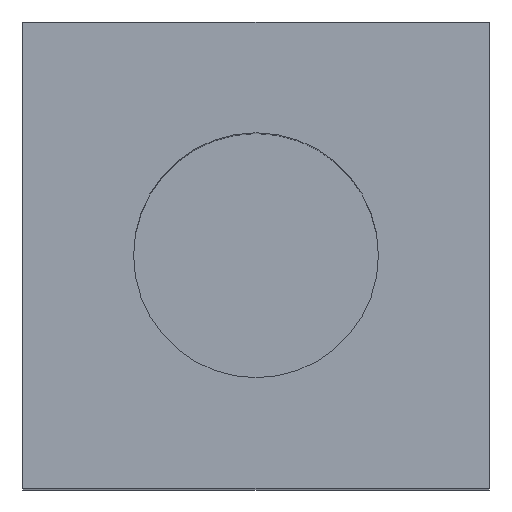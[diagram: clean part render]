
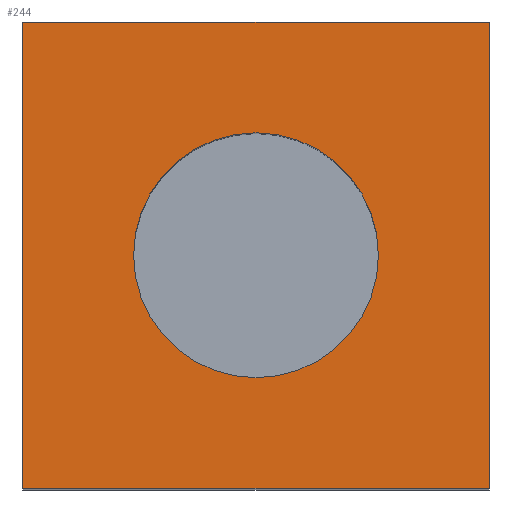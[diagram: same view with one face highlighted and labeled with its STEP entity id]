
A CAD part, top view. The second image highlights one B-rep face of the part: STEP entity #244.
In plain terms, the highlighted planar face has unit normal (0, 0, 1).
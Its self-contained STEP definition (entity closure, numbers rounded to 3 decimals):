
#24 = VERTEX_POINT('',#25);
#25 = CARTESIAN_POINT('',(317.327,4.,12.916));
#32 = PLANE('',#33);
#33 = AXIS2_PLACEMENT_3D('',#34,#35,#36);
#34 = CARTESIAN_POINT('',(317.327,4.,5.116));
#35 = DIRECTION('',(1.,0.,-0.));
#36 = DIRECTION('',(0.,0.,1.));
#44 = PLANE('',#45);
#45 = AXIS2_PLACEMENT_3D('',#46,#47,#48);
#46 = CARTESIAN_POINT('',(317.327,4.,5.116));
#47 = DIRECTION('',(-0.,1.,0.));
#48 = DIRECTION('',(0.,0.,1.));
#85 = VERTEX_POINT('',#86);
#86 = CARTESIAN_POINT('',(317.327,8.,12.916));
#100 = PLANE('',#101);
#101 = AXIS2_PLACEMENT_3D('',#102,#103,#104);
#102 = CARTESIAN_POINT('',(317.327,8.,5.116));
#103 = DIRECTION('',(-0.,1.,0.));
#104 = DIRECTION('',(0.,0.,1.));
#112 = EDGE_CURVE('',#24,#85,#113,.T.);
#113 = SURFACE_CURVE('',#114,(#118,#125),.PCURVE_S1.);
#114 = LINE('',#115,#116);
#115 = CARTESIAN_POINT('',(317.327,4.,12.916));
#116 = VECTOR('',#117,1.);
#117 = DIRECTION('',(-0.,1.,0.));
#118 = PCURVE('',#32,#119);
#119 = DEFINITIONAL_REPRESENTATION('',(#120),#124);
#120 = LINE('',#121,#122);
#121 = CARTESIAN_POINT('',(7.8,0.));
#122 = VECTOR('',#123,1.);
#123 = DIRECTION('',(0.,-1.));
#124 = ( GEOMETRIC_REPRESENTATION_CONTEXT(2) 
PARAMETRIC_REPRESENTATION_CONTEXT() REPRESENTATION_CONTEXT('2D SPACE',''
  ) );
#125 = PCURVE('',#126,#131);
#126 = PLANE('',#127);
#127 = AXIS2_PLACEMENT_3D('',#128,#129,#130);
#128 = CARTESIAN_POINT('',(317.327,4.,12.916));
#129 = DIRECTION('',(0.,0.,1.));
#130 = DIRECTION('',(1.,0.,-0.));
#131 = DEFINITIONAL_REPRESENTATION('',(#132),#136);
#132 = LINE('',#133,#134);
#133 = CARTESIAN_POINT('',(0.,0.));
#134 = VECTOR('',#135,1.);
#135 = DIRECTION('',(0.,1.));
#136 = ( GEOMETRIC_REPRESENTATION_CONTEXT(2) 
PARAMETRIC_REPRESENTATION_CONTEXT() REPRESENTATION_CONTEXT('2D SPACE',''
  ) );
#165 = EDGE_CURVE('',#24,#166,#168,.T.);
#166 = VERTEX_POINT('',#167);
#167 = CARTESIAN_POINT('',(321.327,4.,12.916));
#168 = SURFACE_CURVE('',#169,(#173,#180),.PCURVE_S1.);
#169 = LINE('',#170,#171);
#170 = CARTESIAN_POINT('',(317.327,4.,12.916));
#171 = VECTOR('',#172,1.);
#172 = DIRECTION('',(1.,0.,-0.));
#173 = PCURVE('',#44,#174);
#174 = DEFINITIONAL_REPRESENTATION('',(#175),#179);
#175 = LINE('',#176,#177);
#176 = CARTESIAN_POINT('',(7.8,0.));
#177 = VECTOR('',#178,1.);
#178 = DIRECTION('',(0.,1.));
#179 = ( GEOMETRIC_REPRESENTATION_CONTEXT(2) 
PARAMETRIC_REPRESENTATION_CONTEXT() REPRESENTATION_CONTEXT('2D SPACE',''
  ) );
#180 = PCURVE('',#126,#181);
#181 = DEFINITIONAL_REPRESENTATION('',(#182),#186);
#182 = LINE('',#183,#184);
#183 = CARTESIAN_POINT('',(0.,0.));
#184 = VECTOR('',#185,1.);
#185 = DIRECTION('',(1.,0.));
#186 = ( GEOMETRIC_REPRESENTATION_CONTEXT(2) 
PARAMETRIC_REPRESENTATION_CONTEXT() REPRESENTATION_CONTEXT('2D SPACE',''
  ) );
#202 = PLANE('',#203);
#203 = AXIS2_PLACEMENT_3D('',#204,#205,#206);
#204 = CARTESIAN_POINT('',(321.327,4.,5.116));
#205 = DIRECTION('',(1.,0.,-0.));
#206 = DIRECTION('',(0.,0.,1.));
#244 = ADVANCED_FACE('',(#245,#293),#126,.T.);
#245 = FACE_BOUND('',#246,.T.);
#246 = EDGE_LOOP('',(#247,#248,#249,#272));
#247 = ORIENTED_EDGE('',*,*,#112,.F.);
#248 = ORIENTED_EDGE('',*,*,#165,.T.);
#249 = ORIENTED_EDGE('',*,*,#250,.T.);
#250 = EDGE_CURVE('',#166,#251,#253,.T.);
#251 = VERTEX_POINT('',#252);
#252 = CARTESIAN_POINT('',(321.327,8.,12.916));
#253 = SURFACE_CURVE('',#254,(#258,#265),.PCURVE_S1.);
#254 = LINE('',#255,#256);
#255 = CARTESIAN_POINT('',(321.327,4.,12.916));
#256 = VECTOR('',#257,1.);
#257 = DIRECTION('',(-0.,1.,0.));
#258 = PCURVE('',#126,#259);
#259 = DEFINITIONAL_REPRESENTATION('',(#260),#264);
#260 = LINE('',#261,#262);
#261 = CARTESIAN_POINT('',(4.,0.));
#262 = VECTOR('',#263,1.);
#263 = DIRECTION('',(0.,1.));
#264 = ( GEOMETRIC_REPRESENTATION_CONTEXT(2) 
PARAMETRIC_REPRESENTATION_CONTEXT() REPRESENTATION_CONTEXT('2D SPACE',''
  ) );
#265 = PCURVE('',#202,#266);
#266 = DEFINITIONAL_REPRESENTATION('',(#267),#271);
#267 = LINE('',#268,#269);
#268 = CARTESIAN_POINT('',(7.8,0.));
#269 = VECTOR('',#270,1.);
#270 = DIRECTION('',(0.,-1.));
#271 = ( GEOMETRIC_REPRESENTATION_CONTEXT(2) 
PARAMETRIC_REPRESENTATION_CONTEXT() REPRESENTATION_CONTEXT('2D SPACE',''
  ) );
#272 = ORIENTED_EDGE('',*,*,#273,.F.);
#273 = EDGE_CURVE('',#85,#251,#274,.T.);
#274 = SURFACE_CURVE('',#275,(#279,#286),.PCURVE_S1.);
#275 = LINE('',#276,#277);
#276 = CARTESIAN_POINT('',(317.327,8.,12.916));
#277 = VECTOR('',#278,1.);
#278 = DIRECTION('',(1.,0.,-0.));
#279 = PCURVE('',#126,#280);
#280 = DEFINITIONAL_REPRESENTATION('',(#281),#285);
#281 = LINE('',#282,#283);
#282 = CARTESIAN_POINT('',(0.,4.));
#283 = VECTOR('',#284,1.);
#284 = DIRECTION('',(1.,0.));
#285 = ( GEOMETRIC_REPRESENTATION_CONTEXT(2) 
PARAMETRIC_REPRESENTATION_CONTEXT() REPRESENTATION_CONTEXT('2D SPACE',''
  ) );
#286 = PCURVE('',#100,#287);
#287 = DEFINITIONAL_REPRESENTATION('',(#288),#292);
#288 = LINE('',#289,#290);
#289 = CARTESIAN_POINT('',(7.8,0.));
#290 = VECTOR('',#291,1.);
#291 = DIRECTION('',(0.,1.));
#292 = ( GEOMETRIC_REPRESENTATION_CONTEXT(2) 
PARAMETRIC_REPRESENTATION_CONTEXT() REPRESENTATION_CONTEXT('2D SPACE',''
  ) );
#293 = FACE_BOUND('',#294,.T.);
#294 = EDGE_LOOP('',(#295));
#295 = ORIENTED_EDGE('',*,*,#296,.F.);
#296 = EDGE_CURVE('',#297,#297,#299,.T.);
#297 = VERTEX_POINT('',#298);
#298 = CARTESIAN_POINT('',(320.377,6.,12.916));
#299 = SURFACE_CURVE('',#300,(#305,#312),.PCURVE_S1.);
#300 = CIRCLE('',#301,1.05);
#301 = AXIS2_PLACEMENT_3D('',#302,#303,#304);
#302 = CARTESIAN_POINT('',(319.327,6.,12.916));
#303 = DIRECTION('',(0.,0.,1.));
#304 = DIRECTION('',(1.,0.,-0.));
#305 = PCURVE('',#126,#306);
#306 = DEFINITIONAL_REPRESENTATION('',(#307),#311);
#307 = CIRCLE('',#308,1.05);
#308 = AXIS2_PLACEMENT_2D('',#309,#310);
#309 = CARTESIAN_POINT('',(2.,2.));
#310 = DIRECTION('',(1.,0.));
#311 = ( GEOMETRIC_REPRESENTATION_CONTEXT(2) 
PARAMETRIC_REPRESENTATION_CONTEXT() REPRESENTATION_CONTEXT('2D SPACE',''
  ) );
#312 = PCURVE('',#313,#318);
#313 = CYLINDRICAL_SURFACE('',#314,1.05);
#314 = AXIS2_PLACEMENT_3D('',#315,#316,#317);
#315 = CARTESIAN_POINT('',(319.327,6.,8.816));
#316 = DIRECTION('',(0.,0.,1.));
#317 = DIRECTION('',(1.,0.,-0.));
#318 = DEFINITIONAL_REPRESENTATION('',(#319),#323);
#319 = LINE('',#320,#321);
#320 = CARTESIAN_POINT('',(0.,4.1));
#321 = VECTOR('',#322,1.);
#322 = DIRECTION('',(1.,0.));
#323 = ( GEOMETRIC_REPRESENTATION_CONTEXT(2) 
PARAMETRIC_REPRESENTATION_CONTEXT() REPRESENTATION_CONTEXT('2D SPACE',''
  ) );
